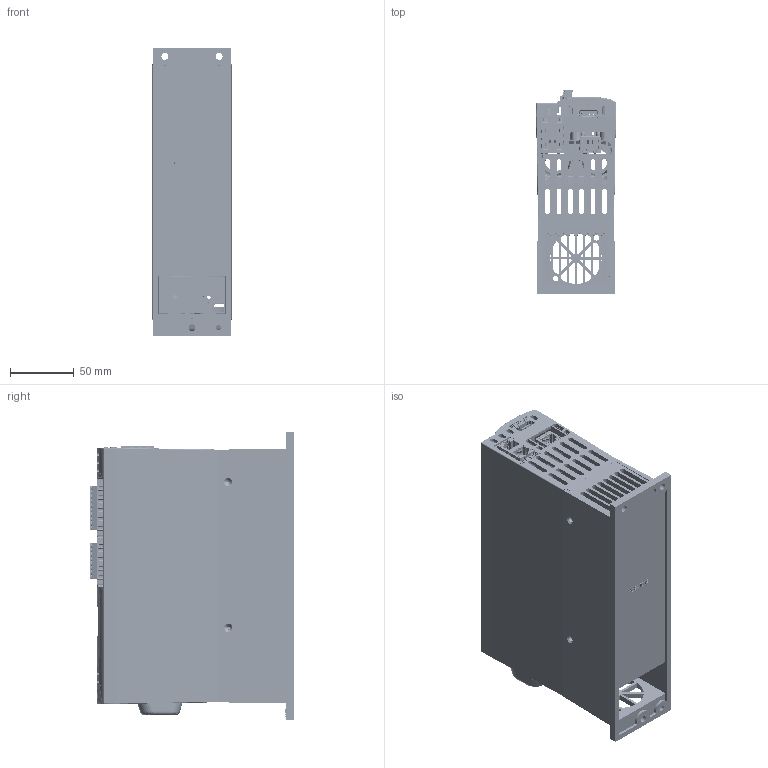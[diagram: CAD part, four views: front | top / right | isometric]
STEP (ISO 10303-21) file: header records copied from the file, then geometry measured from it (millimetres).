
FILE_DESCRIPTION(/* description */ (''),/* implementation_level */ '2;1');
FILE_NAME(/* name */ 'S:\Data\3D_drawings\working\fusion micro large frame\cad block\website\1 PHASE 100-160.stp',/* time_stamp */ '2016-10-13T13:36:35-05:00',/* author */ ('PaulD'),/* organization */ (''),/* preprocessor_version */ 'ST-DEVELOPER v16.5',/* originating_system */ 'Autodesk Inventor 2017',/* authorisation */ '');
FILE_SCHEMA (('AUTOMOTIVE_DESIGN { 1 0 10303 214 3 1 1 }'));
Products named in the file (36): 160A 1Ø SHELLED; 3001329; 3001330; 3001332B CUTOUT; 3001333; 1001401a depopulated; P2; Xport_04_housing; plastic_house; xport_04_base_sub_assembly; plastic_base; short_pins; long_pins; wiper_pins; led1; front_shield; back_cover; xport_pro_controller; xport_04_phy; 1001454A_shelled; P3_1; FCI_10118075_1; P1_1; 20020108C10_FCI; fci_10_pin_header_20020108c101a01lf; fci_10_pin_connector_20020011c101b01lf; P2_1; 20020108C08_FCI; fci_8_pin_header_20020108c081a01lf; fci_8_pin_connector_20020011c081b01lf; fci_8_pin_connector_20020011c081b01lf_LEFT_HALF; fci_8_pin_connector_20020011c081b01lf_RIGHT_HALF; P6; HDMI_TYPE_A_FCI_10029449-001LF; COMPOUND_2; SOLID_2
Assembly tree (49 placements, depth 6):
  160A 1Ø SHELLED
    3001329
    3001330
    3001332B CUTOUT
    3001333
    1001401a depopulated
      P2
        Xport_04_housing
          plastic_house
          xport_04_base_sub_assembly
            plastic_base
            short_pins  x4
            long_pins  x4
            wiper_pins  x8
          led1  x2
          front_shield
          back_cover
          xport_pro_controller
          xport_04_phy
    1001454A_shelled
      P3_1
        FCI_10118075_1
      P1_1
        20020108C10_FCI
          fci_10_pin_header_20020108c101a01lf
          fci_10_pin_connector_20020011c101b01lf
      P2_1
        20020108C08_FCI
          fci_8_pin_header_20020108c081a01lf
          fci_8_pin_connector_20020011c081b01lf
            fci_8_pin_connector_20020011c081b01lf_LEFT_HALF
            fci_8_pin_connector_20020011c081b01lf_RIGHT_HALF
      P6
        HDMI_TYPE_A_FCI_10029449-001LF
          COMPOUND_2
          SOLID_2
Bounding box: 62.51 x 159.65 x 225.55 mm (x, y, z)
Volume: 552331.1 mm3; surface area: 404929.3 mm2
Topology: 81 solids, 2557 shells, 10111 faces, 33787 edges, 26546 vertices
Faces by surface type: plane 7929, cylinder 1618, cone 290, torus 135, bspline 133, sphere 6
Full cylindrical faces by diameter (mm): 0.356 x1, 0.559 x8, 0.584 x8, 0.594 x1, 0.611 x1, 1 x4, 1.118 x1, 1.8 x4, 2.3 x16, 2.845 x13, 2.95 x18, 3.9 x4, 4.14 x2, 4.191 x4
Entity records: 498013 total; most frequent: CARTESIAN_POINT 208127, DIRECTION 55590, ORIENTED_EDGE 52069, EDGE_CURVE 32476, LINE 26608, VECTOR 26608, VERTEX_POINT 25820, AXIS2_PLACEMENT_3D 14491
